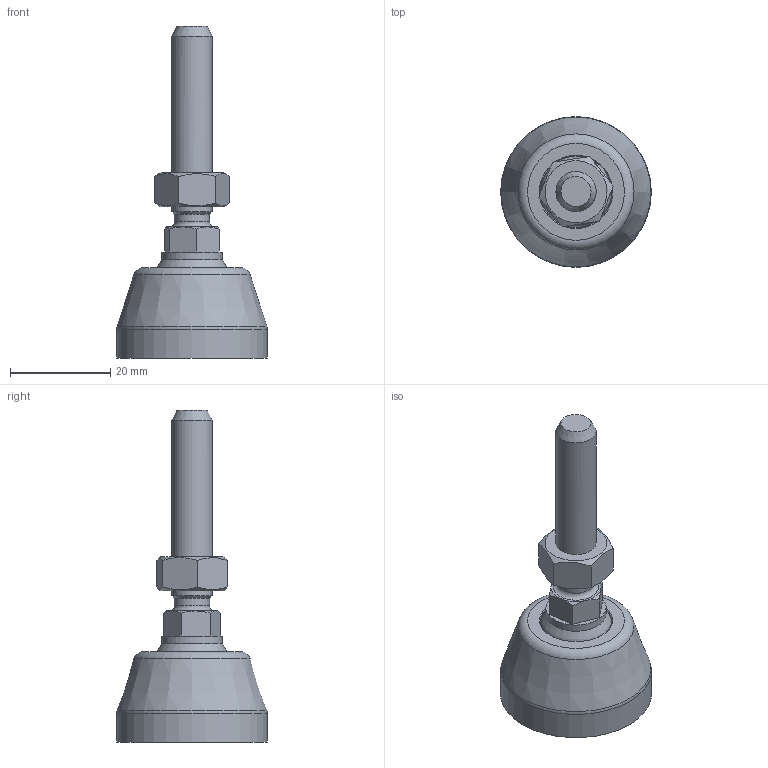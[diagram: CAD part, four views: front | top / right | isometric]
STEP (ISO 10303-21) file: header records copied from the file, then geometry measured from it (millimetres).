
FILE_DESCRIPTION(('STEP AP203'), '1');
FILE_NAME('栖闉罻', '', ('UNSPECIFIED'), ('UNSPECIFIED'), 'C3D Converter', 'C3D Toolkit', '');
FILE_SCHEMA(('CONFIG_CONTROL_DESIGN'));
Length unit declared in the file: millimetre
Products named in the file (4): A00015.1030; A00020.108040
Assembly tree (3 placements, depth 3):
  (unnamed)
    A00015.1030
    A00020.108040
      (unnamed)
Bounding box: 30 x 30 x 66.1 mm (x, y, z)
Volume: 4775 mm3; surface area: 10406.1 mm2
Topology: 1 solids, 2 shells, 212 faces, 584 edges, 342 vertices
Faces by surface type: plane 142, cylinder 34, torus 21, cone 13, sphere 2
Full cylindrical faces by diameter (mm): 7 x1, 8 x3, 8.3 x1, 12 x1, 14.2 x1, 15 x1, 20.6 x1, 30 x1
Entity records: 12162 total; most frequent: CARTESIAN_POINT 5321, ORIENTED_EDGE 1038, DIRECTION 998, EDGE_CURVE 535, AXIS2_PLACEMENT_3D 394, VERTEX_POINT 341, EDGE_LOOP 242, FACE_BOUND 229
